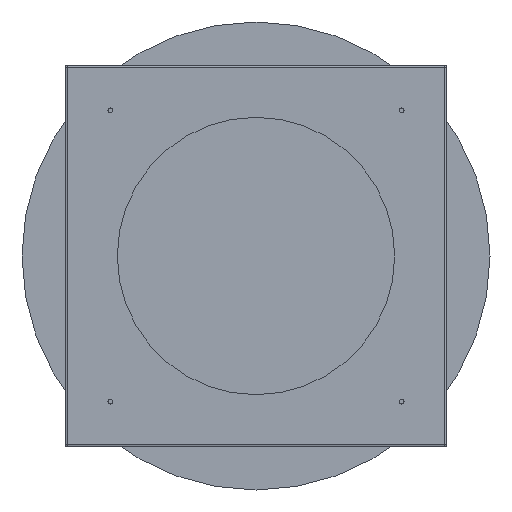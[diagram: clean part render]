
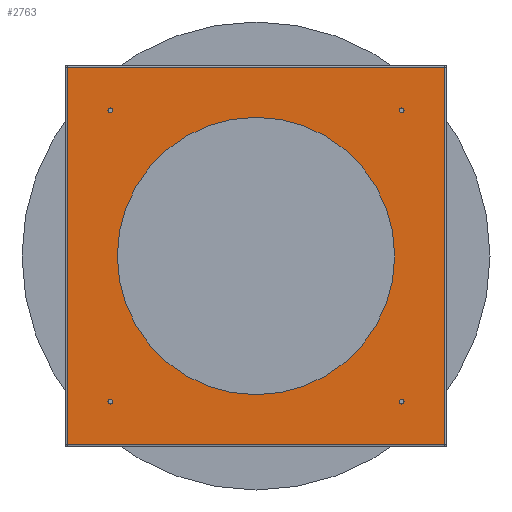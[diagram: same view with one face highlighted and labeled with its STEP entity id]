
A CAD part, front view. The second image highlights one B-rep face of the part: STEP entity #2763.
In plain terms, the highlighted planar face has unit normal (0, -1, 0).
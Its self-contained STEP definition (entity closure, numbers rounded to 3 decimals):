
#2763=ADVANCED_FACE('',(#5943,#5944,#5945,#5946,#5947,#5948),#5949,.F.);
#5943=FACE_BOUND('',#9132,.T.);
#5944=FACE_BOUND('',#9133,.T.);
#5945=FACE_BOUND('',#9134,.T.);
#5946=FACE_BOUND('',#9135,.T.);
#5947=FACE_BOUND('',#9136,.T.);
#5948=FACE_OUTER_BOUND('',#9137,.T.);
#5949=PLANE('',#9138);
#9132=EDGE_LOOP('',(#18290,#18291));
#9133=EDGE_LOOP('',(#18292,#18293));
#9134=EDGE_LOOP('',(#18294,#18295));
#9135=EDGE_LOOP('',(#18296,#18297));
#9136=EDGE_LOOP('',(#18298,#18299));
#9137=EDGE_LOOP('',(#18300,#18301,#18302,#18303));
#9138=AXIS2_PLACEMENT_3D('',#18304,#18305,#18306);
#18290=ORIENTED_EDGE('',*,*,#19364,.T.);
#18291=ORIENTED_EDGE('',*,*,#19331,.T.);
#18292=ORIENTED_EDGE('',*,*,#21982,.T.);
#18293=ORIENTED_EDGE('',*,*,#18405,.T.);
#18294=ORIENTED_EDGE('',*,*,#21985,.T.);
#18295=ORIENTED_EDGE('',*,*,#18400,.T.);
#18296=ORIENTED_EDGE('',*,*,#21988,.T.);
#18297=ORIENTED_EDGE('',*,*,#18395,.T.);
#18298=ORIENTED_EDGE('',*,*,#21991,.T.);
#18299=ORIENTED_EDGE('',*,*,#18390,.T.);
#18300=ORIENTED_EDGE('',*,*,#21999,.F.);
#18301=ORIENTED_EDGE('',*,*,#22005,.T.);
#18302=ORIENTED_EDGE('',*,*,#22011,.T.);
#18303=ORIENTED_EDGE('',*,*,#22039,.F.);
#18304=CARTESIAN_POINT('',(0.0,-366.0,0.0));
#18305=DIRECTION('',(0.0,1.0,0.0));
#18306=DIRECTION('',(0.0,0.0,1.0));
#18390=EDGE_CURVE('',#22079,#22083,#22085,.T.);
#18395=EDGE_CURVE('',#22088,#22092,#22094,.T.);
#18400=EDGE_CURVE('',#22097,#22101,#22103,.T.);
#18405=EDGE_CURVE('',#22106,#22110,#22112,.T.);
#19331=EDGE_CURVE('',#23952,#23956,#23958,.T.);
#19364=EDGE_CURVE('',#23956,#23952,#24004,.T.);
#21982=EDGE_CURVE('',#22110,#22106,#27483,.T.);
#21985=EDGE_CURVE('',#22101,#22097,#27486,.T.);
#21988=EDGE_CURVE('',#22092,#22088,#27489,.T.);
#21991=EDGE_CURVE('',#22083,#22079,#27492,.T.);
#21999=EDGE_CURVE('',#27497,#27503,#27504,.T.);
#22005=EDGE_CURVE('',#27497,#27511,#27513,.T.);
#22011=EDGE_CURVE('',#27511,#27515,#27522,.T.);
#22039=EDGE_CURVE('',#27503,#27515,#27563,.T.);
#22079=VERTEX_POINT('',#27606);
#22083=VERTEX_POINT('',#27611);
#22085=CIRCLE('',#27614,7.0);
#22088=VERTEX_POINT('',#27617);
#22092=VERTEX_POINT('',#27622);
#22094=CIRCLE('',#27625,7.0);
#22097=VERTEX_POINT('',#27628);
#22101=VERTEX_POINT('',#27633);
#22103=CIRCLE('',#27636,7.0);
#22106=VERTEX_POINT('',#27639);
#22110=VERTEX_POINT('',#27644);
#22112=CIRCLE('',#27647,7.0);
#23952=VERTEX_POINT('',#29513);
#23956=VERTEX_POINT('',#29518);
#23958=CIRCLE('',#29521,400.0);
#24004=CIRCLE('',#29571,400.0);
#27483=CIRCLE('',#33910,7.0);
#27486=CIRCLE('',#33913,7.0);
#27489=CIRCLE('',#33916,7.0);
#27492=CIRCLE('',#33919,7.0);
#27497=VERTEX_POINT('',#33924);
#27503=VERTEX_POINT('',#33930);
#27504=LINE('',#33931,#33932);
#27511=VERTEX_POINT('',#33941);
#27513=LINE('',#33943,#33944);
#27515=VERTEX_POINT('',#33946);
#27522=LINE('',#33953,#33954);
#27563=LINE('',#34003,#34004);
#27606=CARTESIAN_POINT('',(-413.0,-366.0,-420.0));
#27611=CARTESIAN_POINT('',(-427.0,-366.0,-420.0));
#27614=AXIS2_PLACEMENT_3D('',#34057,#34058,#34059);
#27617=CARTESIAN_POINT('',(427.0,-366.0,-420.0));
#27622=CARTESIAN_POINT('',(413.0,-366.0,-420.0));
#27625=AXIS2_PLACEMENT_3D('',#34065,#34066,#34067);
#27628=CARTESIAN_POINT('',(427.0,-366.0,420.0));
#27633=CARTESIAN_POINT('',(413.0,-366.0,420.0));
#27636=AXIS2_PLACEMENT_3D('',#34073,#34074,#34075);
#27639=CARTESIAN_POINT('',(-413.0,-366.0,420.0));
#27644=CARTESIAN_POINT('',(-427.0,-366.0,420.0));
#27647=AXIS2_PLACEMENT_3D('',#34081,#34082,#34083);
#29513=CARTESIAN_POINT('',(400.0,-366.0,0.));
#29518=CARTESIAN_POINT('',(-400.0,-366.0,0.));
#29521=AXIS2_PLACEMENT_3D('',#36788,#36789,#36790);
#29571=AXIS2_PLACEMENT_3D('',#36846,#36847,#36848);
#33910=AXIS2_PLACEMENT_3D('',#40376,#40377,#40378);
#33913=AXIS2_PLACEMENT_3D('',#40382,#40383,#40384);
#33916=AXIS2_PLACEMENT_3D('',#40388,#40389,#40390);
#33919=AXIS2_PLACEMENT_3D('',#40394,#40395,#40396);
#33924=CARTESIAN_POINT('',(545.0,-366.0,545.0));
#33930=CARTESIAN_POINT('',(545.0,-366.0,-545.0));
#33931=CARTESIAN_POINT('',(545.0,-366.0,0.0));
#33932=VECTOR('',#40409,1.0);
#33941=CARTESIAN_POINT('',(-545.0,-366.0,545.0));
#33943=CARTESIAN_POINT('',(0.0,-366.0,545.0));
#33944=VECTOR('',#40418,1.0);
#33946=CARTESIAN_POINT('',(-545.0,-366.0,-545.0));
#33953=CARTESIAN_POINT('',(-545.0,-366.0,0.0));
#33954=VECTOR('',#40428,1.0);
#34003=CARTESIAN_POINT('',(0.,-366.0,-545.0));
#34004=VECTOR('',#40473,1.0);
#34057=CARTESIAN_POINT('',(-420.0,-366.0,-420.0));
#34058=DIRECTION('',(-0.0,1.0,0.0));
#34059=DIRECTION('',(1.0,0.0,0.0));
#34065=CARTESIAN_POINT('',(420.0,-366.0,-420.0));
#34066=DIRECTION('',(-0.0,1.0,0.0));
#34067=DIRECTION('',(1.0,0.0,0.0));
#34073=CARTESIAN_POINT('',(420.0,-366.0,420.0));
#34074=DIRECTION('',(-0.0,1.0,0.0));
#34075=DIRECTION('',(1.0,0.0,0.0));
#34081=CARTESIAN_POINT('',(-420.0,-366.0,420.0));
#34082=DIRECTION('',(-0.0,1.0,0.0));
#34083=DIRECTION('',(1.0,0.0,0.0));
#36788=CARTESIAN_POINT('',(0.0,-366.0,0.0));
#36789=DIRECTION('',(-0.0,1.0,0.0));
#36790=DIRECTION('',(1.0,0.0,0.0));
#36846=CARTESIAN_POINT('',(0.0,-366.0,0.0));
#36847=DIRECTION('',(-0.0,1.0,0.0));
#36848=DIRECTION('',(1.0,0.0,0.0));
#40376=CARTESIAN_POINT('',(-420.0,-366.0,420.0));
#40377=DIRECTION('',(-0.0,1.0,0.0));
#40378=DIRECTION('',(1.0,0.0,0.0));
#40382=CARTESIAN_POINT('',(420.0,-366.0,420.0));
#40383=DIRECTION('',(-0.0,1.0,0.0));
#40384=DIRECTION('',(1.0,0.0,0.0));
#40388=CARTESIAN_POINT('',(420.0,-366.0,-420.0));
#40389=DIRECTION('',(-0.0,1.0,0.0));
#40390=DIRECTION('',(1.0,0.0,0.0));
#40394=CARTESIAN_POINT('',(-420.0,-366.0,-420.0));
#40395=DIRECTION('',(-0.0,1.0,0.0));
#40396=DIRECTION('',(1.0,0.0,0.0));
#40409=DIRECTION('',(0.0,0.0,-1.0));
#40418=DIRECTION('',(-1.0,0.,0.));
#40428=DIRECTION('',(0.0,0.0,-1.0));
#40473=DIRECTION('',(-1.0,0.,0.));
